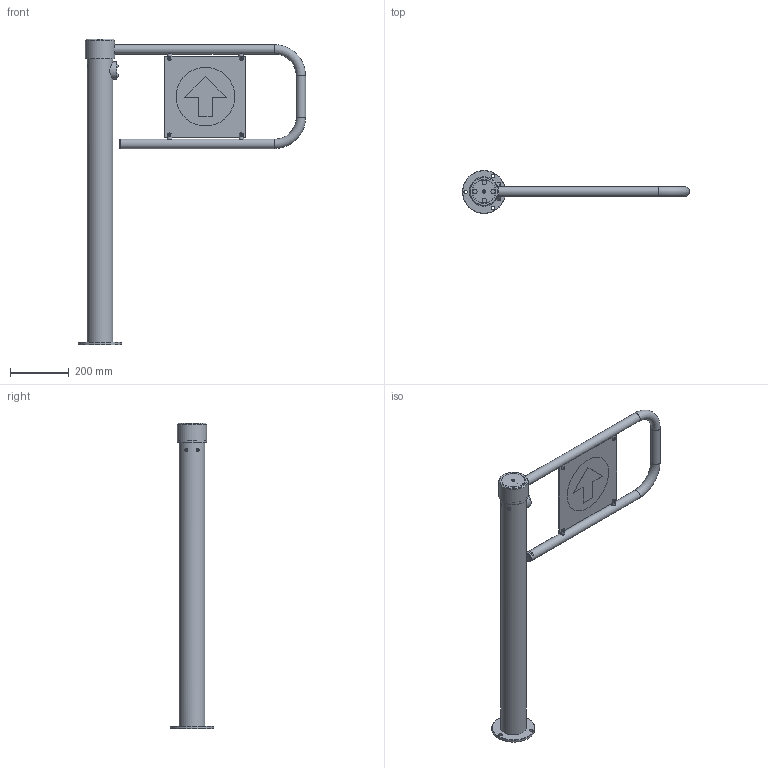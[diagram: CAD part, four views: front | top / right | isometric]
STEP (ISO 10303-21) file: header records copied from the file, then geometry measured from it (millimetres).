
FILE_DESCRIPTION(/* description */ ('Unknown'),/* implementation_level */ '2;1');
FILE_NAME(/* name */ 'WHD-05_650',/* time_stamp */ '2021-11-24T10:24:17+03:00',/* author */ ('Unknown'),/* organization */ ('Unknown'),/* preprocessor_version */ 'ST-DEVELOPER v18.1',/* originating_system */ 'Solid Edge',/* authorisation */ 'Unknown');
FILE_SCHEMA (('CONFIG_CONTROL_DESIGN'));
Length unit declared in the file: millimetre
Products named in the file (23): WHD-05_650; WHD-05.100.00 Ìåõàíèçì âðàùåíèÿ_oa_0; WHD-05.010.00-03 Óçåë âðàùåíèÿ_oa_1; WHD-05.010.02-01 ﾌ瑾魵韭; WHD-05.320.00-03 栺鍣罻; WHD-05.320.02 殲齕; WHD-05.320.01-03 ﾒ矜; WHD-05.340.00-02 Ñòâîðêà â ñáîðå_oa_2; WHD-05.330.00-02 栺碭謤趌oa_3; WHD-05.330.01-02 Ñòâîðêà; Çàãëóøêà_CGR-322-090_(32õ2); 鎔艜_M3x12_DIN_965; WHD-04.300.02 砑僔蠂縺; 腻疰囹咫黖耱尻豚_M.214.00.001_(LINCOS)_oa_4; 腻疰囹咫黖耱尻豚_M.214.00.001_(LINCOS)_oa_5; 腻疰囹咫黖耱尻豚_M.214.00.001_(LINCOS)_oa_6; 腻疰囹咫黖耱尻豚_M.214.00.001_(LINCOS)_oa_7; RTD-14.010.01 Êîðïóñ áëîêà èíäèêàöèè; WHD-05.860.00 Ìîäóëü èíäèêàöèè; WHD-04.300.01 署赅; Âèíò_M4x12_DIN_7991_îêñèä.; 鎔艜_M5x18_DIN_965; 鎔艜_M6x16_DIN_965
Assembly tree (26 placements, depth 4):
  WHD-05_650
    WHD-05.100.00 Ìåõàíèçì âðàùåíèÿ_oa_0
      WHD-05.010.00-03 Óçåë âðàùåíèÿ_oa_1
        WHD-05.010.02-01 ﾌ瑾魵韭
    WHD-05.320.00-03 栺鍣罻
      WHD-05.320.02 殲齕
      WHD-05.320.01-03 ﾒ矜
    WHD-05.340.00-02 Ñòâîðêà â ñáîðå_oa_2
      WHD-05.330.00-02 栺碭謤趌oa_3
        WHD-05.330.01-02 Ñòâîðêà
        Çàãëóøêà_CGR-322-090_(32õ2)
      鎔艜_M3x12_DIN_965  x4
      WHD-04.300.02 砑僔蠂縺
      腻疰囹咫黖耱尻豚_M.214.00.001_(LINCOS)_oa_4
      腻疰囹咫黖耱尻豚_M.214.00.001_(LINCOS)_oa_5
      腻疰囹咫黖耱尻豚_M.214.00.001_(LINCOS)_oa_6
      腻疰囹咫黖耱尻豚_M.214.00.001_(LINCOS)_oa_7
    RTD-14.010.01 Êîðïóñ áëîêà èíäèêàöèè
    WHD-05.860.00 Ìîäóëü èíäèêàöèè
    WHD-04.300.01 署赅
    Âèíò_M4x12_DIN_7991_îêñèä.
    鎔艜_M5x18_DIN_965
    鎔艜_M6x16_DIN_965  x2
Bounding box: 773.5 x 147 x 1039.5 mm (x, y, z)
Volume: 2225266.3 mm3; surface area: 1088997.9 mm2
Topology: 25 solids, 25 shells, 438 faces, 1054 edges, 673 vertices
Faces by surface type: cylinder 144, plane 144, cone 72, torus 31, sphere 24, bspline 23
Full cylindrical faces by diameter (mm): 2.8 x3, 3 x8, 3.141 x1, 3.242 x1, 3.5 x4, 4 x2, 4.134 x1, 5 x6, 5.5 x4, 6 x5, 6.5 x1, 6.647 x2, 6.9 x4, 7 x2, 7.9 x4, 8 x5, 9 x2, 9.3 x1, 10.7 x2, 11.3 x2, 12 x3, 14 x1, 15 x2, 16 x6, 20 x2, 20.5 x2, 23.4 x1, 27 x4, 28 x1, 32 x5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
Entity records: 13854 total; most frequent: CARTESIAN_POINT 3167, DIRECTION 1787, ORIENTED_EDGE 1540, EDGE_CURVE 770, AXIS2_PLACEMENT_3D 765, EDGE_LOOP 647, FACE_BOUND 647, VERTEX_POINT 567
